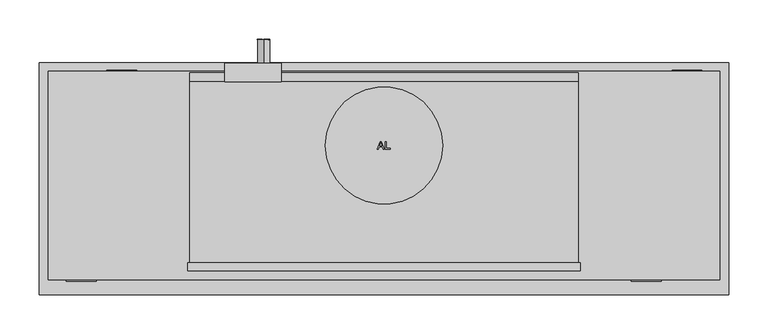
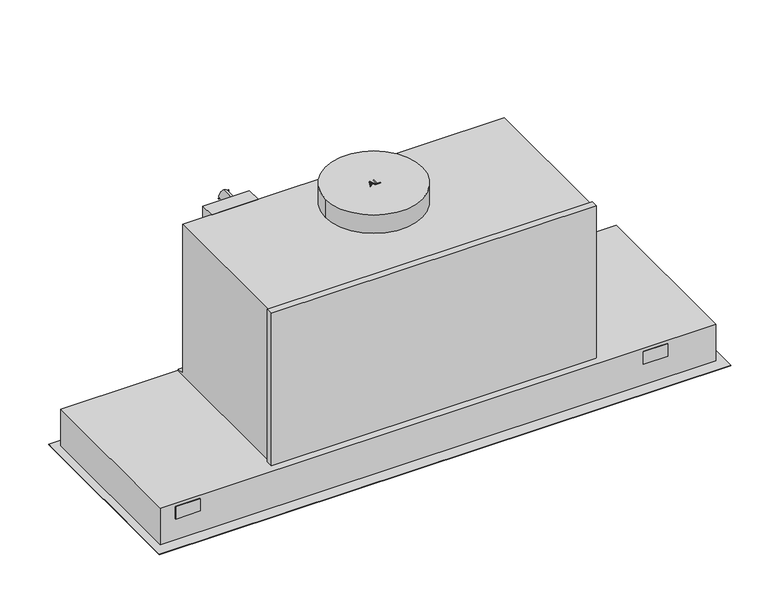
"""IFC4 building model written with IfcOpenShell, lengths in millimetres: proxy geometry, 10861670_F_DA2698_BRWS : 28269835_F_10861670_DA2698_BRWS."""

from ifc_helpers import new_model, si_unit, point, frame, frame_2d, origin, place, context, project, spatial, polyline, circle_curve, ellipse_curve, trimmed, segment, composite_curve, outline, extrude, faceted_brep, source, transform, mapped, element, save
from ifc_brep_helpers import plane_surface, cylinder_surface, revolved_surface, extruded_surface, advanced_brep


def specialty_equipment_ee965aab(model_context):
    return source(origin(), model_context, "Body", "SolidModel", [
        extrude(outline(composite_curve([segment(trimmed(circle_curve(frame_2d((-311.5, -60.0)), 3.253), [point((-314.753, -60.0))], [point((-308.247, -60.0))], False, "CARTESIAN"), True, "CONTINUOUS"), segment(trimmed(circle_curve(frame_2d((-311.5, -60.0)), 3.253), [point((-308.247, -60.0))], [point((-314.753, -60.0))], False, "CARTESIAN"), True, "CONTINUOUS")], self_intersect=False)), frame((0.0, 0.0, 9.5), z_axis=(0.0, 0.0, 1.0), x_axis=(1.0, 0.0, 0.0)), (0.0, 0.0, 1.0), 24.5),
        extrude(outline(composite_curve([segment(trimmed(circle_curve(frame_2d((0.0, -60.0)), 3.25), [point((-3.25, -60.0))], [point((3.25, -60.0))], False, "CARTESIAN"), True, "CONTINUOUS"), segment(trimmed(circle_curve(frame_2d((0.0, -60.0)), 3.25), [point((3.25, -60.0))], [point((-3.25, -60.0))], False, "CARTESIAN"), True, "CONTINUOUS")], self_intersect=False)), frame((0.0, 0.0, 9.5), z_axis=(0.0, 0.0, 1.0), x_axis=(1.0, 0.0, 0.0)), (0.0, 0.0, 1.0), 24.5),
        extrude(outline(composite_curve([segment(trimmed(circle_curve(frame_2d((311.5, -60.0)), 3.25), [point((308.25, -60.0))], [point((314.75, -60.0))], False, "CARTESIAN"), True, "CONTINUOUS"), segment(trimmed(circle_curve(frame_2d((311.5, -60.0)), 3.25), [point((314.75, -60.0))], [point((308.25, -60.0))], False, "CARTESIAN"), True, "CONTINUOUS")], self_intersect=False)), frame((0.0, 0.0, 9.5), z_axis=(0.0, 0.0, 1.0), x_axis=(1.0, 0.0, 0.0)), (0.0, 0.0, 1.0), 24.5),
        extrude(outline(composite_curve([segment(trimmed(circle_curve(frame_2d((311.5, -237.0)), 3.25), [point((308.25, -237.0))], [point((314.75, -237.0))], False, "CARTESIAN"), True, "CONTINUOUS"), segment(trimmed(circle_curve(frame_2d((311.5, -237.0)), 3.25), [point((314.75, -237.0))], [point((308.25, -237.0))], False, "CARTESIAN"), True, "CONTINUOUS")], self_intersect=False)), frame((0.0, 0.0, 9.5), z_axis=(0.0, 0.0, 1.0), x_axis=(1.0, 0.0, 0.0)), (0.0, 0.0, 1.0), 24.5),
        extrude(outline(composite_curve([segment(trimmed(circle_curve(frame_2d((0.0, -237.0)), 3.25), [point((-3.25, -237.0))], [point((3.25, -237.0))], False, "CARTESIAN"), True, "CONTINUOUS"), segment(trimmed(circle_curve(frame_2d((0.0, -237.0)), 3.25), [point((3.25, -237.0))], [point((-3.25, -237.0))], False, "CARTESIAN"), True, "CONTINUOUS")], self_intersect=False)), frame((0.0, 0.0, 9.5), z_axis=(0.0, 0.0, 1.0), x_axis=(1.0, 0.0, 0.0)), (0.0, 0.0, 1.0), 24.5),
        extrude(outline(composite_curve([segment(trimmed(circle_curve(frame_2d((-311.5, -237.0)), 3.25), [point((-314.75, -237.0))], [point((-308.25, -237.0))], False, "CARTESIAN"), True, "CONTINUOUS"), segment(trimmed(circle_curve(frame_2d((-311.5, -237.0)), 3.25), [point((-308.25, -237.0))], [point((-314.75, -237.0))], False, "CARTESIAN"), True, "CONTINUOUS")], self_intersect=False)), frame((0.0, 0.0, 9.5), z_axis=(0.0, 0.0, 1.0), x_axis=(1.0, 0.0, 0.0)), (0.0, 0.0, 1.0), 24.5),
        extrude(outline(polyline([(326.5, -45.0), (326.5, -252.0), (-326.5, -252.0), (-326.5, -45.0), (326.5, -45.0)])), frame((0.0, 0.0, 0.5), z_axis=(0.0, 0.0, 1.0), x_axis=(1.0, 0.0, 0.0)), (0.0, 0.0, 1.0), 9.0),
        extrude(outline(composite_curve([segment(trimmed(circle_curve(frame_2d((0.0, -106.0)), 75.0), [point((75.0, -106.0))], [point((-75.0, -106.0))], False, "CARTESIAN"), True, "CONTINUOUS"), segment(trimmed(circle_curve(frame_2d((0.0, -106.0)), 75.0), [point((-75.0, -106.0))], [point((75.0, -106.0))], False, "CARTESIAN"), True, "CONTINUOUS")], self_intersect=False)), frame((0.0, 0.0, 307.0), z_axis=(0.0, 0.0, 1.0), x_axis=(1.0, 0.0, 0.0)), (0.0, 0.0, 1.0), 30.0),
        extrude(outline(polyline([(-251.5, -256.5), (251.5, -256.5), (251.5, -266.5), (-251.5, -266.5), (-251.5, -256.5)])), frame((0.0, 0.0, 60.0), z_axis=(0.0, 0.0, 1.0), x_axis=(1.0, 0.0, 0.0)), (0.0, 0.0, 1.0), 249.5),
        faceted_brep([(430.0, -11.0, 60.0), (-430.0, -11.0, 60.0), (-430.0, -278.0, 60.0), (430.0, -278.0, 60.0), (430.0, -11.0, 0.0), (430.0, -278.0, 0.0), (-430.0, -278.0, 0.0), (-430.0, -11.0, 0.0), (342.0, -30.0, 0.0), (-342.0, -30.0, 0.0), (-342.0, -267.0, 0.0), (342.0, -267.0, 0.0), (342.0, -30.0, 34.0), (342.0, -267.0, 34.0), (-342.0, -267.0, 34.0), (-342.0, -30.0, 34.0)], [[[0, 1, 2, 3]], [[4, 5, 6, 7], [8, 9, 10, 11]], [[1, 0, 4, 7]], [[2, 1, 7, 6]], [[3, 2, 6, 5]], [[0, 3, 5, 4]], [[12, 13, 14, 15]], [[12, 15, 9, 8]], [[15, 14, 10, 9]], [[14, 13, 11, 10]], [[13, 12, 8, 11]]]),
        faceted_brep([(442.0, 0.0, 0.0), (-442.0, 0.0, 0.0), (-442.0, -297.0, 0.0), (442.0, -297.0, 0.0), (-342.0, -30.0, 0.0), (342.0, -30.0, 0.0), (342.0, -267.0, 0.0), (-342.0, -267.0, 0.0), (-437.669873, -292.669873, -3.0), (-437.669873, -4.330127, -3.0), (437.669873, -4.330127, -3.0), (437.669873, -292.669873, -3.0), (342.0, -30.0, -3.0), (-342.0, -30.0, -3.0), (-342.0, -267.0, -3.0), (342.0, -267.0, -3.0), (442.0, 0.0, -0.5), (-442.0, 0.0, -0.5), (-442.0, -297.0, -0.5), (442.0, -297.0, -0.5)], [[[0, 1, 2, 3], [4, 5, 6, 7]], [[8, 9, 10, 11], [12, 13, 14, 15]], [[1, 0, 16, 17]], [[2, 1, 17, 18]], [[3, 2, 18, 19]], [[0, 3, 19, 16]], [[18, 17, 9, 8]], [[16, 19, 11, 10]], [[8, 11, 19, 18]], [[10, 9, 17, 16]], [[12, 5, 4, 13]], [[13, 4, 7, 14]], [[14, 7, 6, 15]], [[5, 12, 15, 6]]]),
        extrude(outline(polyline([(-8.547125, -111.0), (-4.5372113, -100.954369), (-3.4679009, -100.954369), (0.5420128, -111.0), (-0.7848149, -111.0), (-1.9350593, -107.8607403), (-6.0725055, -107.8607403), (-7.2202973, -111.0), (-8.547125, -111.0)]), holes=[polyline([(-5.6114267, -106.6050364), (-2.3936855, -106.6050364), (-3.2986752, -104.135322), (-4.0025561, -102.2100729), (-4.6279555, -103.9194979), (-5.6114267, -106.6050364)])]), frame((0.0, 0.0, 337.0), z_axis=(0.0, 0.0, 1.0), x_axis=(1.0, 0.0, 0.0)), (0.0, 0.0, 1.0), 1.0),
        extrude(outline(polyline([(1.8835558, -111.0), (1.8835558, -100.954369), (3.1392597, -100.954369), (3.1392597, -109.7442961), (8.1620752, -109.7442961), (8.1620752, -111.0), (1.8835558, -111.0)])), frame((0.0, 0.0, 337.0), z_axis=(0.0, 0.0, 1.0), x_axis=(1.0, 0.0, 0.0)), (0.0, 0.0, 1.0), 1.0),
        extrude(outline(polyline([(285.0, -146.6227397), (295.045631, -146.6227397), (295.045631, -153.843037), (293.7899271, -153.843037), (293.7899271, -147.8784436), (290.8076304, -147.8784436), (290.8076304, -153.529111), (289.5519266, -153.529111), (289.5519266, -147.8784436), (286.2557039, -147.8784436), (286.2557039, -154.0), (285.0, -154.0), (285.0, -146.6227397)])), frame((0.0, 29.4, 0.0), z_axis=(0.0, 1.0, 0.0), x_axis=(0.0, 0.0, 1.0)), (0.0, 0.0, 1.0), 1.0),
        extrude(outline(polyline([(285.0, -155.8835558), (295.045631, -155.8835558), (295.045631, -157.1392597), (286.2557039, -157.1392597), (286.2557039, -162.1620752), (285.0, -162.1620752), (285.0, -155.8835558)])), frame((0.0, 29.4, 0.0), z_axis=(0.0, 1.0, 0.0), x_axis=(0.0, 0.0, 1.0)), (0.0, 0.0, 1.0), 1.0),
        extrude(outline(composite_curve([segment(trimmed(circle_curve(frame_2d((290.0, -154.0)), 7.5), [point((282.5, -154.0))], [point((297.5, -154.0))], False, "CARTESIAN"), True, "CONTINUOUS"), segment(trimmed(circle_curve(frame_2d((290.0, -154.0)), 7.5), [point((297.5, -154.0))], [point((282.5, -154.0))], False, "CARTESIAN"), True, "CONTINUOUS")], self_intersect=False)), frame((0.0, -0.6, 0.0), z_axis=(0.0, 1.0, 0.0), x_axis=(0.0, 0.0, 1.0)), (0.0, 0.0, 1.0), 30.0),
        extrude(outline(polyline([(-131.7, -0.6), (-131.7, -24.5), (-203.9, -24.5), (-203.9, -0.6), (-131.7, -0.6)])), frame((0.0, 0.0, 279.8), z_axis=(0.0, 0.0, 1.0), x_axis=(1.0, 0.0, 0.0)), (0.0, 0.0, 1.0), 27.0),
        extrude(outline(polyline([(-256.5, 307.0), (-24.5, 307.0), (-24.5, 63.5), (-13.0, 63.5), (-13.0, 60.0), (-256.5, 60.0), (-256.5, 307.0)])), frame((-249.0, 0.0, 0.0), z_axis=(1.0, 0.0, 0.0), x_axis=(0.0, 1.0, 0.0)), (0.0, 0.0, 1.0), 498.0),
        extrude(outline(polyline([(369.0, -9.25), (407.0, -9.25), (407.0, -11.0), (369.0, -11.0), (369.0, -9.25)])), frame((0.0, 0.0, 35.0), z_axis=(0.0, 0.0, 1.0), x_axis=(1.0, 0.0, 0.0)), (0.0, 0.0, 1.0), 20.0),
        extrude(outline(polyline([(-355.0, -9.25), (-317.0, -9.25), (-317.0, -11.0), (-355.0, -11.0), (-355.0, -9.25)])), frame((0.0, 0.0, 35.0), z_axis=(0.0, 0.0, 1.0), x_axis=(1.0, 0.0, 0.0)), (0.0, 0.0, 1.0), 20.0),
        extrude(outline(polyline([(-407.0, -278.0), (-369.0, -278.0), (-369.0, -279.65), (-407.0, -279.65), (-407.0, -278.0)])), frame((0.0, 0.0, 35.0), z_axis=(0.0, 0.0, 1.0), x_axis=(1.0, 0.0, 0.0)), (0.0, 0.0, 1.0), 20.0),
        extrude(outline(polyline([(317.0, -278.0), (355.0, -278.0), (355.0, -279.65), (317.0, -279.65), (317.0, -278.0)])), frame((0.0, 0.0, 35.0), z_axis=(0.0, 0.0, 1.0), x_axis=(1.0, 0.0, 0.0)), (0.0, 0.0, 1.0), 20.0),
        advanced_brep(
        [(-390.104, -121.64, -4.0), (-389.296, -121.64, -4.0), (-389.296, -116.288, -4.0), (-389.296, -125.6, -4.0), (-392.0, -123.4, -4.0), (-390.104, -116.424, -4.0), (-390.104, -118.84, -4.0), (-391.0, -120.744, -4.0), (-388.272, -121.64, -4.0), (-387.4, -121.64, -4.0), (-387.4, -120.272, -4.0), (-388.272, -120.272, -4.0), (-390.104, -121.64, -3.0), (-391.0, -120.744, -3.0), (-390.104, -118.84, -3.0), (-390.104, -116.424, -3.0), (-392.0, -123.4, -3.0), (-389.296, -125.6, -3.0), (-389.296, -116.288, -3.0), (-389.296, -121.64, -3.0), (-388.272, -121.64, -3.0), (-388.272, -120.272, -3.0), (-387.4, -120.272, -3.0), (-387.4, -121.64, -3.0)],
        [
            (0, 1),
            (1, 2),
            (2, 3, ellipse_curve(frame((-389.296, -120.944, -4.0), z_axis=(0.0, 0.0, -1.0), x_axis=(0.0, -1.0, 0.0)), 4.656, 3.848)),
            (3, 4, circle_curve(frame((-389.024, -122.5039564, -4.0), z_axis=(0.0, 0.0, -1.0), x_axis=(-1.0, 0.0, 0.0)), 3.1079688)),
            (4, 5, circle_curve(frame((-386.912, -121.0372064, -4.0), z_axis=(0.0, 0.0, -1.0), x_axis=(-1.0, 0.0, 0.0)), 5.6098607)),
            (5, 6),
            (6, 7, circle_curve(frame((-389.36, -120.3529412, -4.0), z_axis=(0.0, 0.0, 1.0), x_axis=(-1.0, 0.0, 0.0)), 1.6859795)),
            (7, 0, circle_curve(frame((-390.104, -120.744, -4.0), z_axis=(0.0, 0.0, 1.0), x_axis=(-1.0, 0.0, 0.0)), 0.896)),
            (8, 9),
            (9, 10, circle_curve(frame((-387.4, -120.956, -4.0), z_axis=(0.0, 0.0, 1.0), x_axis=(-1.0, 0.0, 0.0)), 0.684)),
            (10, 11),
            (11, 8),
            (12, 13, circle_curve(frame((-390.104, -120.744, -3.0), z_axis=(0.0, 0.0, -1.0), x_axis=(-1.0, 0.0, 0.0)), 0.896)),
            (13, 14, circle_curve(frame((-389.36, -120.3529412, -3.0), z_axis=(0.0, 0.0, -1.0), x_axis=(-1.0, 0.0, 0.0)), 1.6859795)),
            (14, 15),
            (15, 16, circle_curve(frame((-386.912, -121.0372064, -3.0), z_axis=(0.0, 0.0, 1.0), x_axis=(-1.0, 0.0, 0.0)), 5.6098607)),
            (16, 17, circle_curve(frame((-389.024, -122.5039564, -3.0), z_axis=(0.0, 0.0, 1.0), x_axis=(-1.0, 0.0, 0.0)), 3.1079688)),
            (17, 18, ellipse_curve(frame((-389.296, -120.944, -3.0), z_axis=(0.0, 0.0, 1.0), x_axis=(0.0, -1.0, 0.0)), 4.656, 3.848)),
            (18, 19),
            (19, 12),
            (20, 21),
            (21, 22),
            (22, 23, circle_curve(frame((-387.4, -120.956, -3.0), z_axis=(0.0, 0.0, -1.0), x_axis=(-1.0, 0.0, 0.0)), 0.684)),
            (23, 20),
            (0, 12),
            (19, 1),
            (18, 2),
            (5, 15),
            (14, 6),
            (17, 3),
            (13, 7),
            (16, 4),
            (8, 20),
            (23, 9),
            (22, 10),
            (21, 11),
        ],
        [
            plane_surface(frame((-389.296, -121.64, -4.0), z_axis=(0.0, 0.0, -1.0), x_axis=(1.0, 0.0, 0.0))),
            plane_surface(frame((-389.296, -121.64, -3.0), z_axis=(0.0, 0.0, 1.0), x_axis=(-1.0, 0.0, 0.0))),
            plane_surface(frame((-390.104, -121.64, -4.0), z_axis=(0.0, 1.0, 0.0), x_axis=(0.0, 0.0, 1.0))),
            plane_surface(frame((-389.296, -121.64, -4.0), z_axis=(-1.0, 0.0, 0.0), x_axis=(0.0, 0.0, 1.0))),
            plane_surface(frame((-390.104, -116.424, -4.0), z_axis=(1.0, 0.0, 0.0), x_axis=(0.0, 0.0, 1.0))),
            extruded_surface(trimmed(ellipse_curve(frame((-389.296, -120.944, -2.0), z_axis=(0.0, 0.0, -1.0), x_axis=(0.0, -1.0, 0.0)), 4.656, 3.848), [point((-389.296, -116.288, -2.0))], [point((-389.296, -125.6, -2.0))], True, "CARTESIAN"), (0.0, 0.0, -1.0), 1.0),
            revolved_surface(polyline([(-391.0459795, -120.3529412, -3.0), (-391.0459795, -120.3529412, -4.0)]), (-389.36, -120.3529412, -3.0), (0.0, 0.0, 1.0)),
            revolved_surface(polyline([(-391.0, -120.744, -3.0), (-391.0, -120.744, -4.0)]), (-390.104, -120.744, -3.0), (0.0, 0.0, 1.0)),
            cylinder_surface(frame((-389.024, -122.5039564, -3.0), z_axis=(0.0, 0.0, -1.0), x_axis=(-1.0, 0.0, 0.0)), 3.1079688),
            cylinder_surface(frame((-386.912, -121.0372064, -3.0), z_axis=(0.0, 0.0, -1.0), x_axis=(-1.0, 0.0, 0.0)), 5.6098607),
            plane_surface(frame((-388.272, -121.64, -4.0), z_axis=(0.0, 1.0, 0.0), x_axis=(0.0, 0.0, 1.0))),
            revolved_surface(polyline([(-388.084, -120.956, -3.0), (-388.084, -120.956, -4.0)]), (-387.4, -120.956, -3.0), (0.0, 0.0, 1.0)),
            plane_surface(frame((-387.4, -120.272, -4.0), z_axis=(0.0, -1.0, 0.0), x_axis=(0.0, 0.0, 1.0))),
            plane_surface(frame((-388.272, -120.272, -4.0), z_axis=(1.0, 0.0, 0.0), x_axis=(0.0, 0.0, 1.0))),
        ],
        [
            (0, [[1, 2, 3, 4, 5, 6, 7, 8], [9, 10, 11, 12]]),
            (1, [[13, 14, 15, 16, 17, 18, 19, 20], [21, 22, 23, 24]]),
            (2, [[-1, 25, -20, 26]]),
            (3, [[-2, -26, -19, 27]]),
            (4, [[-6, 28, -15, 29]]),
            (5, [[-3, -27, -18, 30]]),
            (6, [[-7, -29, -14, 31]]),
            (7, [[-8, -31, -13, -25]]),
            (8, [[-4, -30, -17, 32]]),
            (9, [[-5, -32, -16, -28]]),
            (10, [[-9, 33, -24, 34]]),
            (11, [[-10, -34, -23, 35]]),
            (12, [[-11, -35, -22, 36]]),
            (13, [[-12, -36, -21, -33]]),
        ],
    ),
        advanced_brep(
        [(-390.104, -138.336, -4.0), (-389.296, -138.336, -4.0), (-389.296, -132.984, -4.0), (-389.296, -142.296, -4.0), (-392.0, -140.096, -4.0), (-390.104, -133.12, -4.0), (-390.104, -135.536, -4.0), (-391.0, -137.44, -4.0), (-388.272, -138.336, -4.0), (-387.4, -138.336, -4.0), (-387.4, -136.968, -4.0), (-388.272, -136.968, -4.0), (-390.104, -138.336, -3.0), (-391.0, -137.44, -3.0), (-390.104, -135.536, -3.0), (-390.104, -133.12, -3.0), (-392.0, -140.096, -3.0), (-389.296, -142.296, -3.0), (-389.296, -132.984, -3.0), (-389.296, -138.336, -3.0), (-388.272, -138.336, -3.0), (-388.272, -136.968, -3.0), (-387.4, -136.968, -3.0), (-387.4, -138.336, -3.0)],
        [
            (0, 1),
            (1, 2),
            (2, 3, ellipse_curve(frame((-389.296, -137.64, -4.0), z_axis=(0.0, 0.0, -1.0), x_axis=(0.0, -1.0, 0.0)), 4.656, 3.848)),
            (3, 4, circle_curve(frame((-389.024, -139.1999564, -4.0), z_axis=(0.0, 0.0, -1.0), x_axis=(-1.0, 0.0, 0.0)), 3.1079688)),
            (4, 5, circle_curve(frame((-386.912, -137.7332064, -4.0), z_axis=(0.0, 0.0, -1.0), x_axis=(-1.0, 0.0, 0.0)), 5.6098607)),
            (5, 6),
            (6, 7, circle_curve(frame((-389.36, -137.0489412, -4.0), z_axis=(0.0, 0.0, 1.0), x_axis=(-1.0, 0.0, 0.0)), 1.6859795)),
            (7, 0, circle_curve(frame((-390.104, -137.44, -4.0), z_axis=(0.0, 0.0, 1.0), x_axis=(-1.0, 0.0, 0.0)), 0.896)),
            (8, 9),
            (9, 10, circle_curve(frame((-387.4, -137.652, -4.0), z_axis=(0.0, 0.0, 1.0), x_axis=(-1.0, 0.0, 0.0)), 0.684)),
            (10, 11),
            (11, 8),
            (12, 13, circle_curve(frame((-390.104, -137.44, -3.0), z_axis=(0.0, 0.0, -1.0), x_axis=(-1.0, 0.0, 0.0)), 0.896)),
            (13, 14, circle_curve(frame((-389.36, -137.0489412, -3.0), z_axis=(0.0, 0.0, -1.0), x_axis=(-1.0, 0.0, 0.0)), 1.6859795)),
            (14, 15),
            (15, 16, circle_curve(frame((-386.912, -137.7332064, -3.0), z_axis=(0.0, 0.0, 1.0), x_axis=(-1.0, 0.0, 0.0)), 5.6098607)),
            (16, 17, circle_curve(frame((-389.024, -139.1999564, -3.0), z_axis=(0.0, 0.0, 1.0), x_axis=(-1.0, 0.0, 0.0)), 3.1079688)),
            (17, 18, ellipse_curve(frame((-389.296, -137.64, -3.0), z_axis=(0.0, 0.0, 1.0), x_axis=(0.0, -1.0, 0.0)), 4.656, 3.848)),
            (18, 19),
            (19, 12),
            (20, 21),
            (21, 22),
            (22, 23, circle_curve(frame((-387.4, -137.652, -3.0), z_axis=(0.0, 0.0, -1.0), x_axis=(-1.0, 0.0, 0.0)), 0.684)),
            (23, 20),
            (0, 12),
            (19, 1),
            (18, 2),
            (5, 15),
            (14, 6),
            (17, 3),
            (13, 7),
            (16, 4),
            (8, 20),
            (23, 9),
            (22, 10),
            (21, 11),
        ],
        [
            plane_surface(frame((-389.296, -138.336, -4.0), z_axis=(0.0, 0.0, -1.0), x_axis=(1.0, 0.0, 0.0))),
            plane_surface(frame((-389.296, -138.336, -3.0), z_axis=(0.0, 0.0, 1.0), x_axis=(-1.0, 0.0, 0.0))),
            plane_surface(frame((-390.104, -138.336, -4.0), z_axis=(0.0, 1.0, 0.0), x_axis=(0.0, 0.0, 1.0))),
            plane_surface(frame((-389.296, -138.336, -4.0), z_axis=(-1.0, 0.0, 0.0), x_axis=(0.0, 0.0, 1.0))),
            plane_surface(frame((-390.104, -133.12, -4.0), z_axis=(1.0, 0.0, 0.0), x_axis=(0.0, 0.0, 1.0))),
            extruded_surface(trimmed(ellipse_curve(frame((-389.296, -137.64, -2.0), z_axis=(0.0, 0.0, -1.0), x_axis=(0.0, -1.0, 0.0)), 4.656, 3.848), [point((-389.296, -132.984, -2.0))], [point((-389.296, -142.296, -2.0))], True, "CARTESIAN"), (0.0, 0.0, -1.0), 1.0),
            revolved_surface(polyline([(-391.0459795, -137.0489412, -3.0), (-391.0459795, -137.0489412, -4.0)]), (-389.36, -137.0489412, -3.0), (0.0, 0.0, 1.0)),
            revolved_surface(polyline([(-391.0, -137.44, -3.0), (-391.0, -137.44, -4.0)]), (-390.104, -137.44, -3.0), (0.0, 0.0, 1.0)),
            cylinder_surface(frame((-389.024, -139.1999564, -3.0), z_axis=(0.0, 0.0, -1.0), x_axis=(-1.0, 0.0, 0.0)), 3.1079688),
            cylinder_surface(frame((-386.912, -137.7332064, -3.0), z_axis=(0.0, 0.0, -1.0), x_axis=(-1.0, 0.0, 0.0)), 5.6098607),
            plane_surface(frame((-388.272, -138.336, -4.0), z_axis=(0.0, 1.0, 0.0), x_axis=(0.0, 0.0, 1.0))),
            revolved_surface(polyline([(-388.084, -137.652, -3.0), (-388.084, -137.652, -4.0)]), (-387.4, -137.652, -3.0), (0.0, 0.0, 1.0)),
            plane_surface(frame((-387.4, -136.968, -4.0), z_axis=(0.0, -1.0, 0.0), x_axis=(0.0, 0.0, 1.0))),
            plane_surface(frame((-388.272, -136.968, -4.0), z_axis=(1.0, 0.0, 0.0), x_axis=(0.0, 0.0, 1.0))),
        ],
        [
            (0, [[1, 2, 3, 4, 5, 6, 7, 8], [9, 10, 11, 12]]),
            (1, [[13, 14, 15, 16, 17, 18, 19, 20], [21, 22, 23, 24]]),
            (2, [[-1, 25, -20, 26]]),
            (3, [[-2, -26, -19, 27]]),
            (4, [[-6, 28, -15, 29]]),
            (5, [[-3, -27, -18, 30]]),
            (6, [[-7, -29, -14, 31]]),
            (7, [[-8, -31, -13, -25]]),
            (8, [[-4, -30, -17, 32]]),
            (9, [[-5, -32, -16, -28]]),
            (10, [[-9, 33, -24, 34]]),
            (11, [[-10, -34, -23, 35]]),
            (12, [[-11, -35, -22, 36]]),
            (13, [[-12, -36, -21, -33]]),
        ],
    ),
        extrude(outline(polyline([(-384.472, -147.08), (-385.768, -146.472), (-384.504, -143.76), (-383.208, -144.36), (-384.472, -147.08)])), frame((0.0, 0.0, -4.0), z_axis=(0.0, 0.0, 1.0), x_axis=(1.0, 0.0, 0.0)), (0.0, 0.0, 1.0), 1.0),
        extrude(outline(polyline([(-385.944, -149.056), (-387.376, -149.056), (-387.376, -148.104), (-390.656, -148.104), (-390.656, -149.056), (-392.0, -149.056), (-392.0, -142.744), (-390.656, -142.744), (-390.656, -143.672), (-385.944, -143.672), (-385.944, -149.056)])), frame((0.0, 0.0, -4.0), z_axis=(0.0, 0.0, 1.0), x_axis=(1.0, 0.0, 0.0)), (0.0, 0.0, 1.0), 1.0),
        extrude(outline(polyline([(-385.304, -132.536), (-385.304, -131.576), (-390.656, -131.576), (-390.656, -132.536), (-392.0, -132.536), (-392.0, -126.048), (-390.656, -126.048), (-390.656, -127.032), (-384.0, -127.032), (-384.0, -132.536), (-385.304, -132.536)])), frame((0.0, 0.0, -4.0), z_axis=(0.0, 0.0, 1.0), x_axis=(1.0, 0.0, 0.0)), (0.0, 0.0, 1.0), 1.0),
        extrude(outline(polyline([(-385.304, -165.0), (-385.304, -164.032), (-390.656, -164.032), (-390.656, -165.0), (-392.0, -165.0), (-392.0, -161.48), (-390.656, -161.48), (-390.656, -162.44), (-387.2528753, -162.44), (-392.0, -158.864), (-387.1847777, -155.272), (-390.656, -155.272), (-390.656, -156.256), (-392.0, -156.256), (-392.0, -149.872), (-390.656, -149.872), (-390.656, -150.888), (-385.304, -150.888), (-385.304, -149.872), (-384.0, -149.872), (-384.0, -154.744), (-387.0, -157.08), (-384.0, -159.424), (-384.0, -165.0), (-385.304, -165.0)])), frame((0.0, 0.0, -4.0), z_axis=(0.0, 0.0, 1.0), x_axis=(1.0, 0.0, 0.0)), (0.0, 0.0, 1.0), 1.0),
        advanced_brep(
        [(401.5, -242.0, -3.0), (376.5, -242.0, -3.0), (426.5, -242.0, -3.0), (425.071852, -242.0, -4.0), (377.928148, -242.0, -4.0), (401.5, -242.0, -4.0)],
        [
            (0, 1),
            (1, 2, circle_curve(frame((401.5, -242.0, -3.0), z_axis=(0.0, 0.0, 1.0), x_axis=(-1.0, 0.0, 0.0)), 25.0)),
            (2, 0),
            (2, 1, circle_curve(frame((401.5, -242.0, -3.0), z_axis=(0.0, 0.0, 1.0), x_axis=(-1.0, 0.0, 0.0)), 25.0)),
            (3, 4, circle_curve(frame((401.5, -242.0, -4.0), z_axis=(0.0, 0.0, -1.0), x_axis=(-1.0, 0.0, 0.0)), 23.571852)),
            (4, 5),
            (5, 3),
            (4, 3, circle_curve(frame((401.5, -242.0, -4.0), z_axis=(0.0, 0.0, -1.0), x_axis=(-1.0, 0.0, 0.0)), 23.571852)),
            (1, 4),
            (3, 2),
        ],
        [
            plane_surface(frame((401.5, -242.0, -3.0), z_axis=(0.0, 0.0, 1.0), x_axis=(-1.0, 0.0, 0.0))),
            plane_surface(frame((401.5, -242.0, -4.0), z_axis=(0.0, 0.0, -1.0), x_axis=(-1.0, 0.0, 0.0))),
            revolved_surface(polyline([(377.928148, -242.0, -4.0), (376.5, -242.0, -3.0)]), (401.5, -242.0, 2135.4), (0.0, 0.0, 1.0)),
        ],
        [
            (0, [[1, 2, 3]]),
            (0, [[-3, 4, -1]]),
            (1, [[5, 6, 7]]),
            (1, [[8, -7, -6]]),
            (2, [[-2, 9, -5, 10]]),
            (2, [[-4, -10, -8, -9]]),
        ],
    ),
        advanced_brep(
        [(-401.5, -242.0, -3.0), (-426.5, -242.0, -3.0), (-376.5, -242.0, -3.0), (-377.928148, -242.0, -4.0), (-425.071852, -242.0, -4.0), (-401.5, -242.0, -4.0)],
        [
            (0, 1),
            (1, 2, circle_curve(frame((-401.5, -242.0, -3.0), z_axis=(0.0, 0.0, 1.0), x_axis=(-1.0, 0.0, 0.0)), 25.0)),
            (2, 0),
            (2, 1, circle_curve(frame((-401.5, -242.0, -3.0), z_axis=(0.0, 0.0, 1.0), x_axis=(-1.0, 0.0, 0.0)), 25.0)),
            (3, 4, circle_curve(frame((-401.5, -242.0, -4.0), z_axis=(0.0, 0.0, -1.0), x_axis=(-1.0, 0.0, 0.0)), 23.571852)),
            (4, 5),
            (5, 3),
            (4, 3, circle_curve(frame((-401.5, -242.0, -4.0), z_axis=(0.0, 0.0, -1.0), x_axis=(-1.0, 0.0, 0.0)), 23.571852)),
            (1, 4),
            (3, 2),
        ],
        [
            plane_surface(frame((-401.5, -242.0, -3.0), z_axis=(0.0, 0.0, 1.0), x_axis=(-1.0, 0.0, 0.0))),
            plane_surface(frame((-401.5, -242.0, -4.0), z_axis=(0.0, 0.0, -1.0), x_axis=(-1.0, 0.0, 0.0))),
            revolved_surface(polyline([(-425.071852, -242.0, -4.0), (-426.5, -242.0, -3.0)]), (-401.5, -242.0, 2135.4), (0.0, 0.0, 1.0)),
        ],
        [
            (0, [[1, 2, 3]]),
            (0, [[-3, 4, -1]]),
            (1, [[5, 6, 7]]),
            (1, [[8, -7, -6]]),
            (2, [[-2, 9, -5, 10]]),
            (2, [[-4, -10, -8, -9]]),
        ],
    ),
        advanced_brep(
        [(401.5, -55.0, -3.0), (376.5, -55.0, -3.0), (426.5, -55.0, -3.0), (425.071852, -55.0, -4.0), (377.928148, -55.0, -4.0), (401.5, -55.0, -4.0)],
        [
            (0, 1),
            (1, 2, circle_curve(frame((401.5, -55.0, -3.0), z_axis=(0.0, 0.0, 1.0), x_axis=(-1.0, 0.0, 0.0)), 25.0)),
            (2, 0),
            (2, 1, circle_curve(frame((401.5, -55.0, -3.0), z_axis=(0.0, 0.0, 1.0), x_axis=(-1.0, 0.0, 0.0)), 25.0)),
            (3, 4, circle_curve(frame((401.5, -55.0, -4.0), z_axis=(0.0, 0.0, -1.0), x_axis=(-1.0, 0.0, 0.0)), 23.571852)),
            (4, 5),
            (5, 3),
            (4, 3, circle_curve(frame((401.5, -55.0, -4.0), z_axis=(0.0, 0.0, -1.0), x_axis=(-1.0, 0.0, 0.0)), 23.571852)),
            (1, 4),
            (3, 2),
        ],
        [
            plane_surface(frame((401.5, -55.0, -3.0), z_axis=(0.0, 0.0, 1.0), x_axis=(-1.0, 0.0, 0.0))),
            plane_surface(frame((401.5, -55.0, -4.0), z_axis=(0.0, 0.0, -1.0), x_axis=(-1.0, 0.0, 0.0))),
            revolved_surface(polyline([(377.928148, -55.0, -4.0), (376.5, -55.0, -3.0)]), (401.5, -55.0, 2135.4), (0.0, 0.0, 1.0)),
        ],
        [
            (0, [[1, 2, 3]]),
            (0, [[-3, 4, -1]]),
            (1, [[5, 6, 7]]),
            (1, [[8, -7, -6]]),
            (2, [[-2, 9, -5, 10]]),
            (2, [[-4, -10, -8, -9]]),
        ],
    ),
        advanced_brep(
        [(-401.5, -55.0, -3.0), (-426.5, -55.0, -3.0), (-376.5, -55.0, -3.0), (-377.928148, -55.0, -4.0), (-425.071852, -55.0, -4.0), (-401.5, -55.0, -4.0)],
        [
            (0, 1),
            (1, 2, circle_curve(frame((-401.5, -55.0, -3.0), z_axis=(0.0, 0.0, 1.0), x_axis=(-1.0, 0.0, 0.0)), 25.0)),
            (2, 0),
            (2, 1, circle_curve(frame((-401.5, -55.0, -3.0), z_axis=(0.0, 0.0, 1.0), x_axis=(-1.0, 0.0, 0.0)), 25.0)),
            (3, 4, circle_curve(frame((-401.5, -55.0, -4.0), z_axis=(0.0, 0.0, -1.0), x_axis=(-1.0, 0.0, 0.0)), 23.571852)),
            (4, 5),
            (5, 3),
            (4, 3, circle_curve(frame((-401.5, -55.0, -4.0), z_axis=(0.0, 0.0, -1.0), x_axis=(-1.0, 0.0, 0.0)), 23.571852)),
            (1, 4),
            (3, 2),
        ],
        [
            plane_surface(frame((-401.5, -55.0, -3.0), z_axis=(0.0, 0.0, 1.0), x_axis=(-1.0, 0.0, 0.0))),
            plane_surface(frame((-401.5, -55.0, -4.0), z_axis=(0.0, 0.0, -1.0), x_axis=(-1.0, 0.0, 0.0))),
            revolved_surface(polyline([(-425.071852, -55.0, -4.0), (-426.5, -55.0, -3.0)]), (-401.5, -55.0, 2135.4), (0.0, 0.0, 1.0)),
        ],
        [
            (0, [[1, 2, 3]]),
            (0, [[-3, 4, -1]]),
            (1, [[5, 6, 7]]),
            (1, [[8, -7, -6]]),
            (2, [[-2, 9, -5, 10]]),
            (2, [[-4, -10, -8, -9]]),
        ],
    ),
        extrude(outline(composite_curve([segment(polyline([(-4.6, 364.5), (-3.0, 364.5), (-3.0, 356.5), (-4.6, 356.5)]), True, "CONTINUOUS"), segment(trimmed(circle_curve(frame_2d((20.0, 360.5)), 24.9230817), [point((-4.6, 356.5))], [point((-4.6, 364.5))], False, "CARTESIAN"), True, "CONTINUOUS")], self_intersect=False)), frame((0.0, -95.5, 0.0), z_axis=(0.0, 1.0, 0.0), x_axis=(0.0, 0.0, 1.0)), (0.0, 0.0, 1.0), 25.0),
        extrude(outline(composite_curve([segment(polyline([(-3.0, 364.5), (-3.0, 356.5), (-4.6, 356.5)]), True, "CONTINUOUS"), segment(trimmed(circle_curve(frame_2d((20.0, 360.5)), 24.9230817), [point((-4.6, 356.5))], [point((-4.6, 364.5))], False, "CARTESIAN"), True, "CONTINUOUS"), segment(polyline([(-4.6, 364.5), (-3.0, 364.5)]), True, "CONTINUOUS")], self_intersect=False)), frame((0.0, -226.5, 0.0), z_axis=(0.0, 1.0, 0.0), x_axis=(0.0, 0.0, 1.0)), (0.0, 0.0, 1.0), 25.0),
        extrude(outline(composite_curve([segment(polyline([(-4.6, 364.5), (-3.0, 364.5), (-3.0, 356.5), (-4.6, 356.5)]), True, "CONTINUOUS"), segment(trimmed(circle_curve(frame_2d((20.0, 360.5)), 24.9230817), [point((-4.6, 356.5))], [point((-4.6, 364.5))], False, "CARTESIAN"), True, "CONTINUOUS")], self_intersect=False)), frame((0.0, -121.5, 0.0), z_axis=(0.0, 1.0, 0.0), x_axis=(0.0, 0.0, 1.0)), (0.0, 0.0, 1.0), 25.0),
        extrude(outline(composite_curve([segment(polyline([(-4.6, 364.5), (-3.0, 364.5), (-3.0, 356.5), (-4.6, 356.5)]), True, "CONTINUOUS"), segment(trimmed(circle_curve(frame_2d((20.0, 360.5)), 24.9230817), [point((-4.6, 356.5))], [point((-4.6, 364.5))], False, "CARTESIAN"), True, "CONTINUOUS")], self_intersect=False)), frame((0.0, -174.5, 0.0), z_axis=(0.0, 1.0, 0.0), x_axis=(0.0, 0.0, 1.0)), (0.0, 0.0, 1.0), 52.0),
        extrude(outline(composite_curve([segment(polyline([(-4.6, 364.5), (-3.0, 364.5), (-3.0, 356.5), (-4.6, 356.5)]), True, "CONTINUOUS"), segment(trimmed(circle_curve(frame_2d((20.0, 360.5)), 24.9230817), [point((-4.6, 356.5))], [point((-4.6, 364.5))], False, "CARTESIAN"), True, "CONTINUOUS")], self_intersect=False)), frame((0.0, -200.5, 0.0), z_axis=(0.0, 1.0, 0.0), x_axis=(0.0, 0.0, 1.0)), (0.0, 0.0, 1.0), 25.0),
    ])


if __name__ == "__main__":
    model = new_model("IFC4")
    model_context = context("Model", 3, world=origin())
    ifc_project = project(units=[si_unit("LENGTHUNIT", "METRE", prefix="MILLI")], contexts=[model_context])
    site = spatial("IfcSite", under=ifc_project)
    building = spatial("IfcBuilding", under=site)
    placement = place(None, origin())
    specialty_equipment_shape = specialty_equipment_ee965aab(model_context)
    element("IfcBuildingElementProxy", 1, Name="10861670_F_DA2698_BRWS : 28269835_F_10861670_DA2698_BRWS", ObjectType="10861670_F_DA2698_BRWS : 28269835_F_10861670_DA2698_BRWS", at=placement, inside=building, context=model_context, shape_type="MappedRepresentation", body=[
        mapped(specialty_equipment_shape, transform((0.0, 0.0, 0.0), x_axis=(1.0, 0.0, 0.0), y_axis=(0.0, 1.0, 0.0), z_axis=(0.0, 0.0, 1.0))),
    ])
    save(model, "model.ifc")
